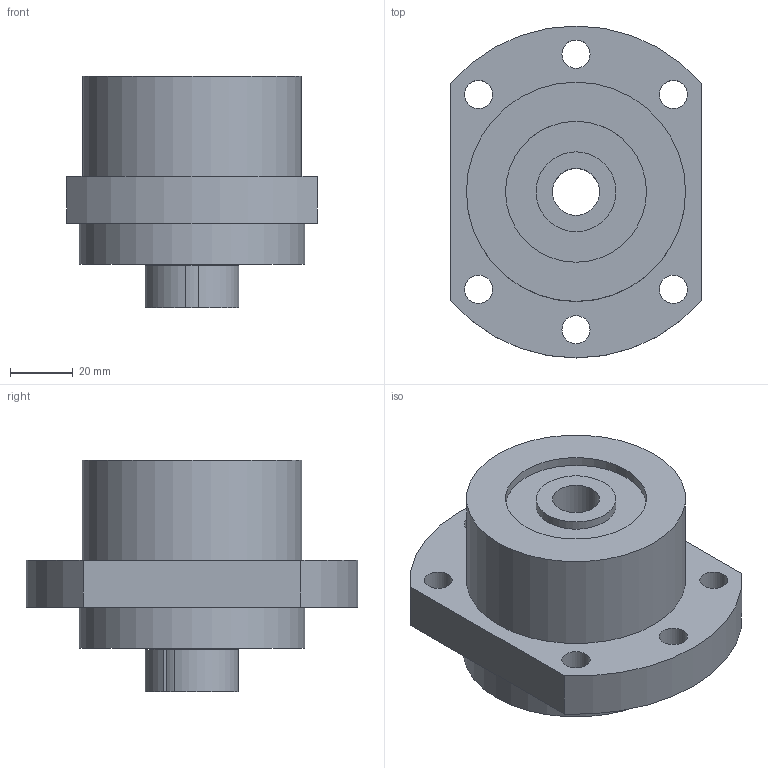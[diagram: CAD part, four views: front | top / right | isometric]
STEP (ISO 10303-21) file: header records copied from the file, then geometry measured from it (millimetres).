
FILE_DESCRIPTION(/* description */ (''),/* implementation_level */ '2;1');
FILE_NAME(/* name */ 'C:\Users\tenki620635\Desktop\官網\圖面\軸承座\3D\setp檔\WBK15 DF.stp',/* time_stamp */ '2020-12-21T09:59:18+08:00',/* author */ ('tenki620635'),/* organization */ (''),/* preprocessor_version */ 'ST-DEVELOPER v15.2',/* originating_system */ 'Autodesk Inventor 2014',/* authorisation */ '');
FILE_SCHEMA (('AUTOMOTIVE_DESIGN { 1 0 10303 214 3 1 1 }'));
Length unit declared in the file: millimetre
Products named in the file (1): WBK15 DF-Atype
Bounding box: 80 x 106 x 74 mm (x, y, z)
Volume: 269383.4 mm3; surface area: 38835 mm2
Topology: 1 solids, 1 shells, 52 faces, 108 edges, 72 vertices
Faces by surface type: cylinder 28, plane 24
Full cylindrical faces by diameter (mm): 9 x6, 14 x6, 15 x1, 25 x1, 25.5 x2, 45 x2, 70 x1, 72 x1
Entity records: 1357 total; most frequent: DIRECTION 250, CARTESIAN_POINT 213, ORIENTED_EDGE 176, AXIS2_PLACEMENT_3D 109, EDGE_LOOP 100, EDGE_CURVE 88, VERTEX_POINT 72, FACE_BOUND 56
